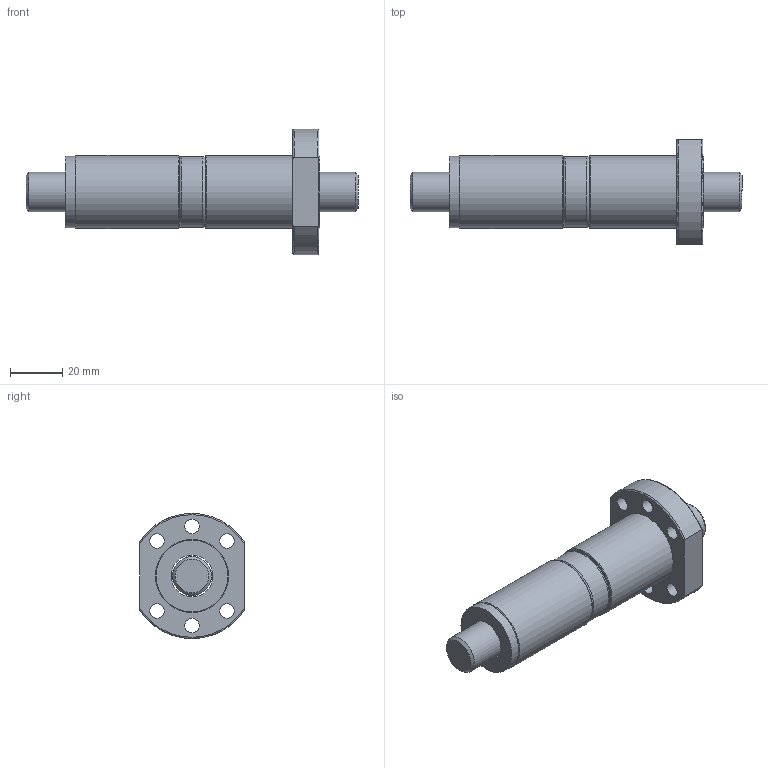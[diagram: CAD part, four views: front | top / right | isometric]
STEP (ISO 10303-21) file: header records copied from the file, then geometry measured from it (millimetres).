
FILE_DESCRIPTION(/* description */ (''),/* implementation_level */ '2;1');
FILE_NAME(/* name */ 'DFS1610',/* time_stamp */ '2007-10-26T13:30:59+08:00',/* author */ (''),/* organization */ (''),/* preprocessor_version */ 'ST-DEVELOPER v9',/* originating_system */ 'UGS - NX 3.0',/* authorisation */ '');
FILE_SCHEMA (('CONFIG_CONTROL_DESIGN'));
Length unit declared in the file: millimetre
Products named in the file (1): jaso15A4i31n
Bounding box: 127.25 x 40 x 48 mm (x, y, z)
Volume: 71370.6 mm3; surface area: 27617 mm2
Topology: 6 solids, 6 shells, 47 faces, 92 edges, 59 vertices
Faces by surface type: cylinder 20, plane 16, torus 9, cone 2
Full cylindrical faces by diameter (mm): 5.5 x6, 15 x1, 16 x5, 27 x1, 27.5 x3, 28 x2
Entity records: 1350 total; most frequent: CARTESIAN_POINT 324, DIRECTION 206, ORIENTED_EDGE 134, AXIS2_PLACEMENT_3D 99, EDGE_LOOP 96, FACE_BOUND 72, EDGE_CURVE 67, VERTEX_POINT 59
